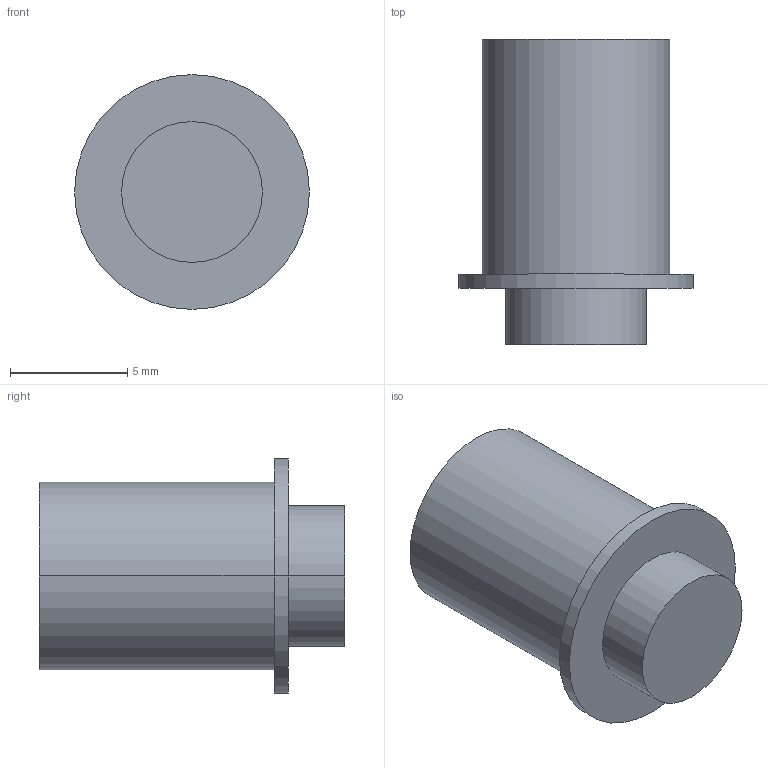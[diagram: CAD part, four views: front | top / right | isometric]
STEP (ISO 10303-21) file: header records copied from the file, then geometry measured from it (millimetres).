
FILE_DESCRIPTION (( 'STEP AP214' ), '1' );
FILE_NAME ('Frontpuffer_D8_gefedert 3,0mm.step', '2010-10-15T08:27:14', ( 'grass' ), ( '' ), 'SwSTEP 2.0', 'SolidWorks 2010', '' );
FILE_SCHEMA (( 'AUTOMOTIVE_DESIGN' ));
Length unit declared in the file: millimetre
Products named in the file (1): Frontpuffer_D8_gefedert 3,0mm
Bounding box: 10 x 13 x 10 mm (x, y, z)
Volume: 617.6 mm3; surface area: 472.5 mm2
Topology: 1 solids, 1 shells, 10 faces, 18 edges, 12 vertices
Faces by surface type: cylinder 6, plane 4
Entity records: 288 total; most frequent: DIRECTION 52, CARTESIAN_POINT 41, ORIENTED_EDGE 36, AXIS2_PLACEMENT_3D 23, EDGE_CURVE 18, CIRCLE 12, VERTEX_POINT 12, EDGE_LOOP 12
